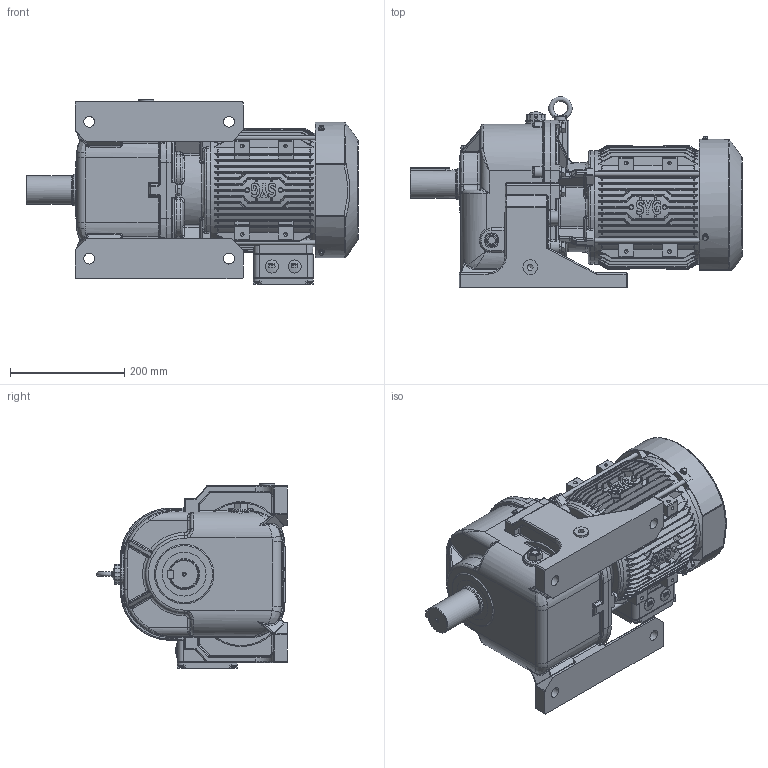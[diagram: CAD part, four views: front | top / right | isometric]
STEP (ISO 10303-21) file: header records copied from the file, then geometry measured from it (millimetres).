
FILE_DESCRIPTION(/* description */ (''),/* implementation_level */ '2;1');
FILE_NAME(/* name */ 'D:\▼ 3D：MG\01. 내부 직접 검토품\MG 181\외형도용 - ASS''Y\SK2\MG1810A - OUTLINE (SK2，HT，3.7kW).stp',/* time_stamp */ '2026-04-13T15:40:47+09:00',/* author */ ('이정훈'),/* organization */ (''),/* preprocessor_version */ 'ST-DEVELOPER v18.1',/* originating_system */ 'Autodesk Inventor 2022',/* authorisation */ '');
FILE_SCHEMA (('AUTOMOTIVE_DESIGN { 1 0 10303 214 3 1 1 }'));
Products named in the file (1): MG1810A - OUTLINE (SK2，HT，3.7kW
)
Bounding box: 582.3 x 334.5 x 324.4 mm (x, y, z)
Volume: 20439106.8 mm3; surface area: 1103050.5 mm2
Topology: 4 solids, 4 shells, 4874 faces, 12374 edges, 7506 vertices
Faces by surface type: plane 1591, cylinder 1579, bspline 1078, cone 275, torus 220, sphere 131
Full cylindrical faces by diameter (mm): 3.504 x2, 4 x1, 5.5 x3, 7.008 x1, 8 x4, 9 x4, 9.5 x4, 10 x9, 12 x9, 13 x2, 13.097 x1, 19 x4, 23 x3, 26 x3, 26.194 x1, 30.5 x1, 41 x1, 49.4 x1, 50 x1, 52 x1, 55 x1, 60 x1, 72 x1, 129 x1, 199 x2
Entity records: 200927 total; most frequent: CARTESIAN_POINT 88351, ORIENTED_EDGE 24574, DIRECTION 22548, EDGE_CURVE 12287, AXIS2_PLACEMENT_3D 8856, VERTEX_POINT 7518, EDGE_LOOP 5031, FACE_OUTER_BOUND 4874
